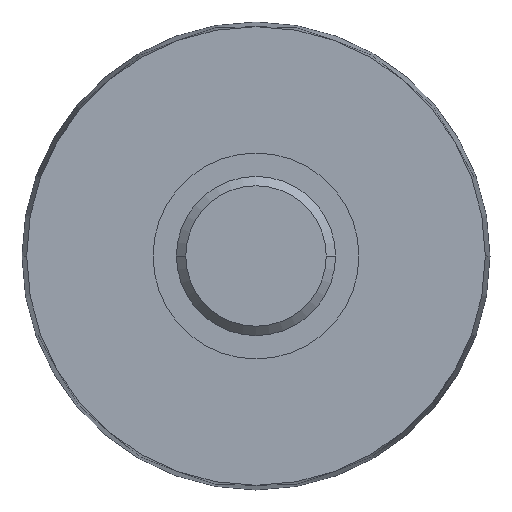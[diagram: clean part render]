
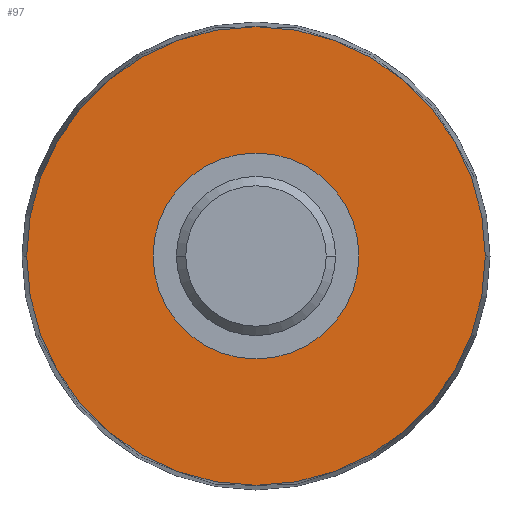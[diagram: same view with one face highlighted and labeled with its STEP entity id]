
A CAD part, left-side view. The second image highlights one B-rep face of the part: STEP entity #97.
In plain terms, the highlighted planar face has unit normal (-1, 0, 0).
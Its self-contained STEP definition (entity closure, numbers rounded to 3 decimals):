
#2 = VERTEX_POINT ( 'NONE', #374 ) ;
#17 = DIRECTION ( 'NONE',  ( 0., -1., 0. ) ) ;
#36 = VERTEX_POINT ( 'NONE', #299 ) ;
#44 = EDGE_CURVE ( 'NONE', #36, #182, #307, .T. ) ;
#47 = DIRECTION ( 'NONE',  ( -1., 0., 0. ) ) ;
#49 = CIRCLE ( 'NONE', #68, 24.5 ) ;
#54 = EDGE_CURVE ( 'NONE', #2, #76, #267, .T. ) ;
#64 = CARTESIAN_POINT ( 'NONE',  ( 24.5, 0., 0. ) ) ;
#68 = AXIS2_PLACEMENT_3D ( 'NONE', #64, #47, #17 ) ;
#76 = VERTEX_POINT ( 'NONE', #371 ) ;
#88 = ORIENTED_EDGE ( 'NONE', *, *, #103, .T. ) ;
#89 = EDGE_LOOP ( 'NONE', ( #88, #232 ) ) ;
#96 = ORIENTED_EDGE ( 'NONE', *, *, #195, .F. ) ;
#97 = ADVANCED_FACE ( 'NONE', ( #363, #265 ), #264, .F. ) ;
#103 = EDGE_CURVE ( 'NONE', #76, #2, #49, .T. ) ;
#182 = VERTEX_POINT ( 'NONE', #539 ) ;
#195 = EDGE_CURVE ( 'NONE', #182, #36, #654, .T. ) ;
#197 = ORIENTED_EDGE ( 'NONE', *, *, #44, .F. ) ;
#221 = EDGE_LOOP ( 'NONE', ( #197, #96 ) ) ;
#232 = ORIENTED_EDGE ( 'NONE', *, *, #54, .T. ) ;
#257 = DIRECTION ( 'NONE',  ( 0., 1., 0. ) ) ;
#258 = DIRECTION ( 'NONE',  ( 1., 0., 0. ) ) ;
#264 = PLANE ( 'NONE',  #369 ) ;
#265 = FACE_OUTER_BOUND ( 'NONE', #89, .T. ) ;
#266 = CARTESIAN_POINT ( 'NONE',  ( 24.5, 24.5, 0. ) ) ;
#267 = CIRCLE ( 'NONE', #283, 24.5 ) ;
#269 = AXIS2_PLACEMENT_3D ( 'NONE', #311, #310, #387 ) ;
#270 = DIRECTION ( 'NONE',  ( 0., -1., 0. ) ) ;
#271 = DIRECTION ( 'NONE',  ( -1., 0., 0. ) ) ;
#272 = CARTESIAN_POINT ( 'NONE',  ( 24.5, 0., 0. ) ) ;
#283 = AXIS2_PLACEMENT_3D ( 'NONE', #272, #271, #270 ) ;
#299 = CARTESIAN_POINT ( 'NONE',  ( 24.5, -11., 0. ) ) ;
#307 = CIRCLE ( 'NONE', #269, 11. ) ;
#310 = DIRECTION ( 'NONE',  ( -1., 0., 0. ) ) ;
#311 = CARTESIAN_POINT ( 'NONE',  ( 24.5, 0., 0. ) ) ;
#363 = FACE_BOUND ( 'NONE', #221, .T. ) ;
#369 = AXIS2_PLACEMENT_3D ( 'NONE', #266, #258, #257 ) ;
#371 = CARTESIAN_POINT ( 'NONE',  ( 24.5, 24.5, 0. ) ) ;
#374 = CARTESIAN_POINT ( 'NONE',  ( 24.5, -24.5, 0. ) ) ;
#387 = DIRECTION ( 'NONE',  ( 0., -1., 0. ) ) ;
#539 = CARTESIAN_POINT ( 'NONE',  ( 24.5, 11., 0. ) ) ;
#636 = CARTESIAN_POINT ( 'NONE',  ( 24.5, 0., 0. ) ) ;
#650 = DIRECTION ( 'NONE',  ( 0., -1., 0. ) ) ;
#654 = CIRCLE ( 'NONE', #666, 11. ) ;
#656 = DIRECTION ( 'NONE',  ( -1., 0., 0. ) ) ;
#666 = AXIS2_PLACEMENT_3D ( 'NONE', #636, #656, #650 ) ;
